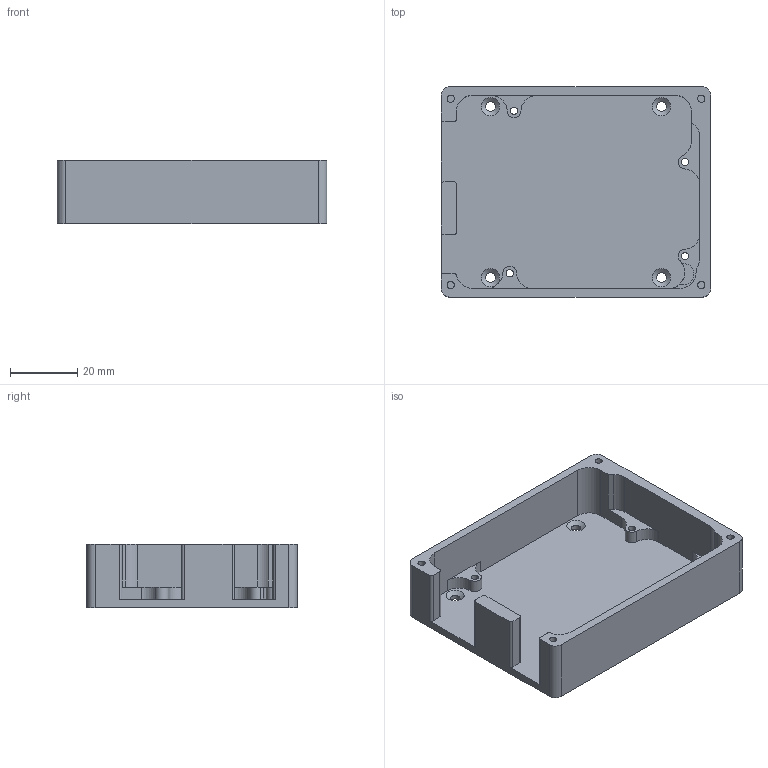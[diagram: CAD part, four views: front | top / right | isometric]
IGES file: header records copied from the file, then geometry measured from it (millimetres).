
Global section: file name: No Iges File Name specified; native system: Autodesk Inventor 2013; preprocessor: AutoDesk Inventor Iges Exporter R2013; author: chh; date: 20121022.131529; units: inch
Bounding box: 80.01 x 62.48 x 18.8 mm (x, y, z)
Surface area: 19120.5 mm2 (no closed solid volume)
Topology: 0 solids, 0 shells, 78 faces, 420 edges, 400 vertices
Faces by surface type: revolution 51, plane 27
